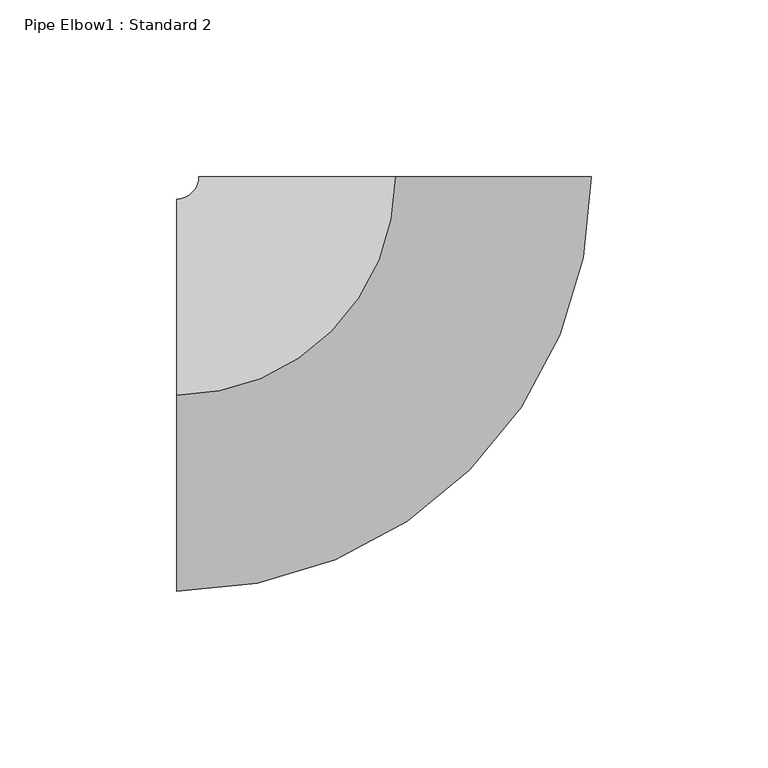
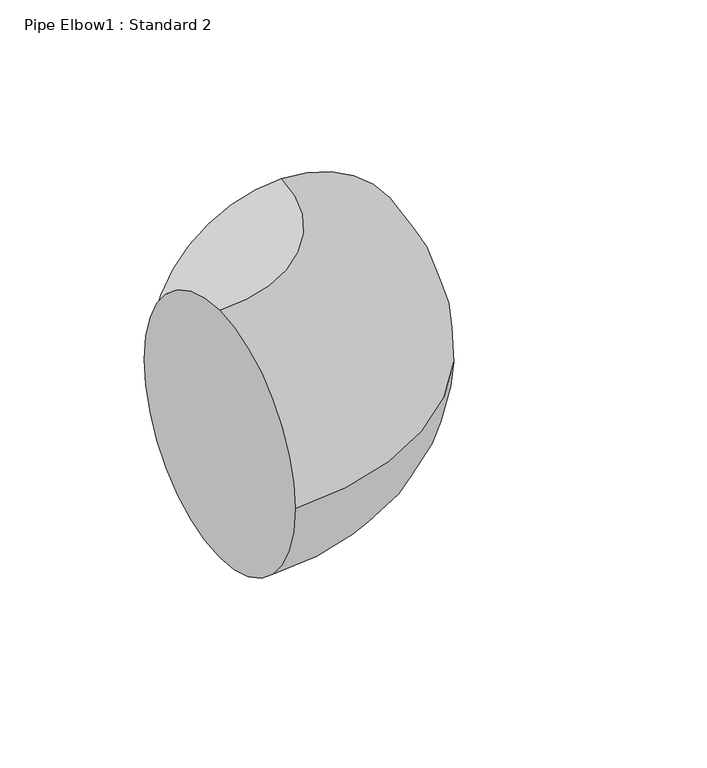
"""IFC4 building model written with IfcOpenShell, lengths in millimetres: pipe fitting geometry, Pipe Elbow1 : Standard 2."""

from ifc_helpers import new_model, si_unit, point, frame, origin, place, context, project, spatial, circle_curve, ellipse_curve, trimmed, source, transform, mapped, element, save
from ifc_brep_helpers import plane_surface, revolved_surface, advanced_brep


def pipe_elbow1_standard_2_0a98076e(model_context):
    return source(origin(), model_context, "Body", "AdvancedBrep", [
        advanced_brep(
        [(-61.9125, 0.0, 55.5625), (-61.9125, 55.5625, 0.0), (-61.9125, 0.0, -55.5625), (-61.9125, -55.5625, 0.0), (0.0, 61.9125, 55.5625), (55.5625, 61.9125, 0.0), (0.0, 61.9125, -55.5625), (-55.5625, 61.9125, 0.0)],
        [
            (0, 1, circle_curve(frame((-61.9125, 0.0, 0.0), z_axis=(-1.0, 0.0, 0.0), x_axis=(0.0, 1.0, 0.0)), 55.5625)),
            (1, 2, circle_curve(frame((-61.9125, 0.0, 0.0), z_axis=(-1.0, 0.0, 0.0), x_axis=(0.0, 1.0, 0.0)), 55.5625)),
            (2, 3, circle_curve(frame((-61.9125, 0.0, 0.0), z_axis=(-1.0, 0.0, 0.0), x_axis=(0.0, 1.0, 0.0)), 55.5625)),
            (3, 0, circle_curve(frame((-61.9125, 0.0, 0.0), z_axis=(-1.0, 0.0, 0.0), x_axis=(0.0, 1.0, 0.0)), 55.5625)),
            (4, 5, circle_curve(frame((0.0, 61.9125, 0.0), z_axis=(0.0, 1.0, 0.0), x_axis=(-1.0, 0.0, 0.0)), 55.5625)),
            (5, 6, circle_curve(frame((0.0, 61.9125, 0.0), z_axis=(0.0, 1.0, 0.0), x_axis=(-1.0, 0.0, 0.0)), 55.5625)),
            (6, 7, circle_curve(frame((0.0, 61.9125, 0.0), z_axis=(0.0, 1.0, 0.0), x_axis=(-1.0, 0.0, 0.0)), 55.5625)),
            (7, 4, circle_curve(frame((0.0, 61.9125, 0.0), z_axis=(0.0, 1.0, 0.0), x_axis=(-1.0, 0.0, 0.0)), 55.5625)),
            (7, 1, circle_curve(frame((-61.9125, 61.9125, 0.0), z_axis=(0.0, 0.0, -1.0), x_axis=(0.0, -1.0, 0.0)), 6.35)),
            (0, 4, circle_curve(frame((-61.9125, 61.9125, 55.5625), z_axis=(0.0, 0.0, 1.0), x_axis=(0.0, -1.0, 0.0)), 61.9125)),
            (6, 2, circle_curve(frame((-61.9125, 61.9125, -55.5625), z_axis=(0.0, 0.0, -1.0), x_axis=(0.0, -1.0, 0.0)), 61.9125)),
            (5, 3, circle_curve(frame((-61.9125, 61.9125, 0.0), z_axis=(0.0, 0.0, -1.0), x_axis=(0.0, -1.0, 0.0)), 117.475)),
        ],
        [
            plane_surface(frame((-61.9125, 0.0, 0.0), z_axis=(-1.0, 0.0, 0.0), x_axis=(0.0, 0.0, 1.0))),
            plane_surface(frame((0.0, 61.9125, 0.0), z_axis=(0.0, 1.0, 0.0), x_axis=(0.0, 0.0, 1.0))),
            revolved_surface(trimmed(ellipse_curve(frame((-61.9125, 0.0, 0.0), z_axis=(-1.0, 0.0, 0.0), x_axis=(0.0, 1.0, 0.0)), 55.5625, 55.5625), [point((-61.9125, 0.0, 55.5625))], [point((-61.9125, 55.5625, 0.0))], True, "CARTESIAN"), (-61.9125, 61.9125, 0.0), (0.0, 0.0, 1.0)),
            revolved_surface(trimmed(ellipse_curve(frame((-61.9125, 0.0, 0.0), z_axis=(-1.0, 0.0, 0.0), x_axis=(0.0, 1.0, 0.0)), 55.5625, 55.5625), [point((-61.9125, 55.5625, 0.0))], [point((-61.9125, 0.0, -55.5625))], True, "CARTESIAN"), (-61.9125, 61.9125, 0.0), (0.0, 0.0, 1.0)),
            revolved_surface(trimmed(ellipse_curve(frame((-61.9125, 0.0, 0.0), z_axis=(-1.0, 0.0, 0.0), x_axis=(0.0, 1.0, 0.0)), 55.5625, 55.5625), [point((-61.9125, 0.0, -55.5625))], [point((-61.9125, -55.5625, 0.0))], True, "CARTESIAN"), (-61.9125, 61.9125, 0.0), (0.0, 0.0, 1.0)),
            revolved_surface(trimmed(ellipse_curve(frame((-61.9125, 0.0, 0.0), z_axis=(-1.0, 0.0, 0.0), x_axis=(0.0, 1.0, 0.0)), 55.5625, 55.5625), [point((-61.9125, -55.5625, 0.0))], [point((-61.9125, 0.0, 55.5625))], True, "CARTESIAN"), (-61.9125, 61.9125, 0.0), (0.0, 0.0, 1.0)),
        ],
        [
            (0, [[1, 2, 3, 4]]),
            (1, [[5, 6, 7, 8]]),
            (2, [[9, -1, 10, -8]]),
            (3, [[11, -2, -9, -7]]),
            (4, [[12, -3, -11, -6]]),
            (5, [[-10, -4, -12, -5]]),
        ],
    ),
        advanced_brep(
        [(-61.9125, 0.0, 55.5625), (-61.9125, 55.5625, 0.0), (-61.9125, 0.0, -55.5625), (-61.9125, -55.5625, 0.0), (0.0, 61.9125, 55.5625), (55.5625, 61.9125, 0.0), (0.0, 61.9125, -55.5625), (-55.5625, 61.9125, 0.0)],
        [
            (0, 1, circle_curve(frame((-61.9125, 0.0, 0.0), z_axis=(-1.0, 0.0, 0.0), x_axis=(0.0, 1.0, 0.0)), 55.5625)),
            (1, 2, circle_curve(frame((-61.9125, 0.0, 0.0), z_axis=(-1.0, 0.0, 0.0), x_axis=(0.0, 1.0, 0.0)), 55.5625)),
            (2, 3, circle_curve(frame((-61.9125, 0.0, 0.0), z_axis=(-1.0, 0.0, 0.0), x_axis=(0.0, 1.0, 0.0)), 55.5625)),
            (3, 0, circle_curve(frame((-61.9125, 0.0, 0.0), z_axis=(-1.0, 0.0, 0.0), x_axis=(0.0, 1.0, 0.0)), 55.5625)),
            (4, 5, circle_curve(frame((0.0, 61.9125, 0.0), z_axis=(0.0, 1.0, 0.0), x_axis=(-1.0, 0.0, 0.0)), 55.5625)),
            (5, 6, circle_curve(frame((0.0, 61.9125, 0.0), z_axis=(0.0, 1.0, 0.0), x_axis=(-1.0, 0.0, 0.0)), 55.5625)),
            (6, 7, circle_curve(frame((0.0, 61.9125, 0.0), z_axis=(0.0, 1.0, 0.0), x_axis=(-1.0, 0.0, 0.0)), 55.5625)),
            (7, 4, circle_curve(frame((0.0, 61.9125, 0.0), z_axis=(0.0, 1.0, 0.0), x_axis=(-1.0, 0.0, 0.0)), 55.5625)),
            (7, 1, circle_curve(frame((-61.9125, 61.9125, 0.0), z_axis=(0.0, 0.0, -1.0), x_axis=(0.0, -1.0, 0.0)), 6.35)),
            (0, 4, circle_curve(frame((-61.9125, 61.9125, 55.5625), z_axis=(0.0, 0.0, 1.0), x_axis=(0.0, -1.0, 0.0)), 61.9125)),
            (6, 2, circle_curve(frame((-61.9125, 61.9125, -55.5625), z_axis=(0.0, 0.0, -1.0), x_axis=(0.0, -1.0, 0.0)), 61.9125)),
            (5, 3, circle_curve(frame((-61.9125, 61.9125, 0.0), z_axis=(0.0, 0.0, -1.0), x_axis=(0.0, -1.0, 0.0)), 117.475)),
        ],
        [
            plane_surface(frame((-61.9125, 0.0, 0.0), z_axis=(-1.0, 0.0, 0.0), x_axis=(0.0, 0.0, 1.0))),
            plane_surface(frame((0.0, 61.9125, 0.0), z_axis=(0.0, 1.0, 0.0), x_axis=(0.0, 0.0, 1.0))),
            revolved_surface(trimmed(ellipse_curve(frame((-61.9125, 0.0, 0.0), z_axis=(-1.0, 0.0, 0.0), x_axis=(0.0, 1.0, 0.0)), 55.5625, 55.5625), [point((-61.9125, 0.0, 55.5625))], [point((-61.9125, 55.5625, 0.0))], True, "CARTESIAN"), (-61.9125, 61.9125, 0.0), (0.0, 0.0, 1.0)),
            revolved_surface(trimmed(ellipse_curve(frame((-61.9125, 0.0, 0.0), z_axis=(-1.0, 0.0, 0.0), x_axis=(0.0, 1.0, 0.0)), 55.5625, 55.5625), [point((-61.9125, 55.5625, 0.0))], [point((-61.9125, 0.0, -55.5625))], True, "CARTESIAN"), (-61.9125, 61.9125, 0.0), (0.0, 0.0, 1.0)),
            revolved_surface(trimmed(ellipse_curve(frame((-61.9125, 0.0, 0.0), z_axis=(-1.0, 0.0, 0.0), x_axis=(0.0, 1.0, 0.0)), 55.5625, 55.5625), [point((-61.9125, 0.0, -55.5625))], [point((-61.9125, -55.5625, 0.0))], True, "CARTESIAN"), (-61.9125, 61.9125, 0.0), (0.0, 0.0, 1.0)),
            revolved_surface(trimmed(ellipse_curve(frame((-61.9125, 0.0, 0.0), z_axis=(-1.0, 0.0, 0.0), x_axis=(0.0, 1.0, 0.0)), 55.5625, 55.5625), [point((-61.9125, -55.5625, 0.0))], [point((-61.9125, 0.0, 55.5625))], True, "CARTESIAN"), (-61.9125, 61.9125, 0.0), (0.0, 0.0, 1.0)),
        ],
        [
            (0, [[1, 2, 3, 4]]),
            (1, [[5, 6, 7, 8]]),
            (2, [[9, -1, 10, -8]]),
            (3, [[11, -2, -9, -7]]),
            (4, [[12, -3, -11, -6]]),
            (5, [[-10, -4, -12, -5]]),
        ],
    ),
    ])


if __name__ == "__main__":
    model = new_model("IFC4")
    model_context = context("Model", 3, world=origin())
    ifc_project = project(units=[si_unit("LENGTHUNIT", "METRE", prefix="MILLI")], contexts=[model_context])
    site = spatial("IfcSite", under=ifc_project)
    building = spatial("IfcBuilding", under=site)
    placement = place(None, origin())
    pipe_elbow1_standard_2_shape = pipe_elbow1_standard_2_0a98076e(model_context)
    element("IfcPipeFitting", 1, ObjectType="Pipe Elbow1 : Standard 2", at=placement, inside=building, context=model_context, shape_type="MappedRepresentation", body=[
        mapped(pipe_elbow1_standard_2_shape, transform((0.0, 0.0, 0.0), x_axis=(1.0, 0.0, 0.0), y_axis=(0.0, 1.0, 0.0), z_axis=(0.0, 0.0, 1.0))),
    ])
    save(model, "model.ifc")
